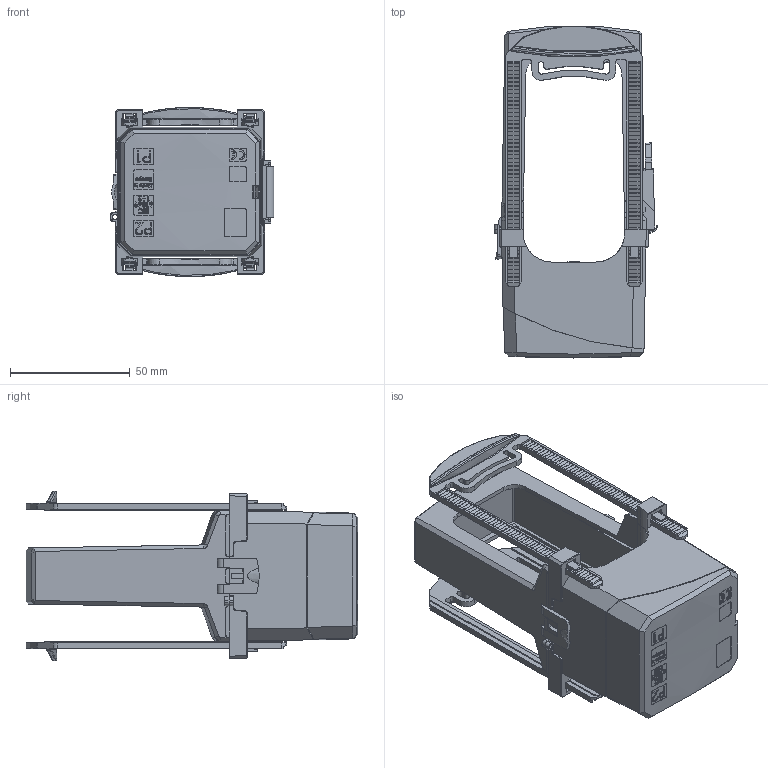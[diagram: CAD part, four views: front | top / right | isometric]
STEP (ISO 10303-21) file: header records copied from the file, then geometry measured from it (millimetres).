
FILE_DESCRIPTION (( 'STEP AP214' ), '1' );
FILE_NAME ('KBR42L_kpl.STEP', '2018-08-01T09:03:41', ( '' ), ( '' ), 'SwSTEP 2.0', 'SolidWorks 2016', '' );
FILE_SCHEMA (( 'AUTOMOTIVE_DESIGN' ));
Length unit declared in the file: millimetre
Products named in the file (14): KBR42L_kpl; KBR42-Gehäuse-OT_mit_Spange_2.8370_01_ausblender; KBR42L-Gehäuse-UT_2.8372_01; KBR42L_Kernhälfte_unten; KBR42_Kernhälfte; KBR42_Kernabdeckung_OT_2.8373; KBR42_Kernabdeckung_UT_2.8374; KBR42-Wicklung; KBR42L_Kern_kpl; KBR42_Innendeckel_2.8375; KBR42L_Fixierspange_2.8377_01; Standardtypenschild_22x26; Verrastungselement_02; KBR42L-Blattfederlement_1.1145
Assembly tree (14 placements, depth 3):
  KBR42L_kpl
    KBR42-Gehäuse-OT_mit_Spange_2.8370_01_ausblender
    KBR42L-Gehäuse-UT_2.8372_01
    KBR42L_Kern_kpl
      KBR42L_Kernhälfte_unten
      KBR42_Kernhälfte
      KBR42_Kernabdeckung_OT_2.8373
      KBR42_Kernabdeckung_UT_2.8374
      KBR42-Wicklung
    KBR42_Innendeckel_2.8375
    KBR42L_Fixierspange_2.8377_01  x2
    Standardtypenschild_22x26
    Verrastungselement_02
    KBR42L-Blattfederlement_1.1145
Bounding box: 68.3 x 138.78 x 70.73 mm (x, y, z)
Volume: 154326.8 mm3; surface area: 121751 mm2
Topology: 13 solids, 13 shells, 2618 faces, 7450 edges, 4906 vertices
Faces by surface type: plane 1967, cylinder 323, bspline 262, cone 48, torus 10, sphere 8
Entity records: 75107 total; most frequent: CARTESIAN_POINT 24826, ORIENTED_EDGE 11516, DIRECTION 8571, EDGE_CURVE 5758, VECTOR 4263, LINE 4263, VERTEX_POINT 3796, AXIS2_PLACEMENT_3D 2154
